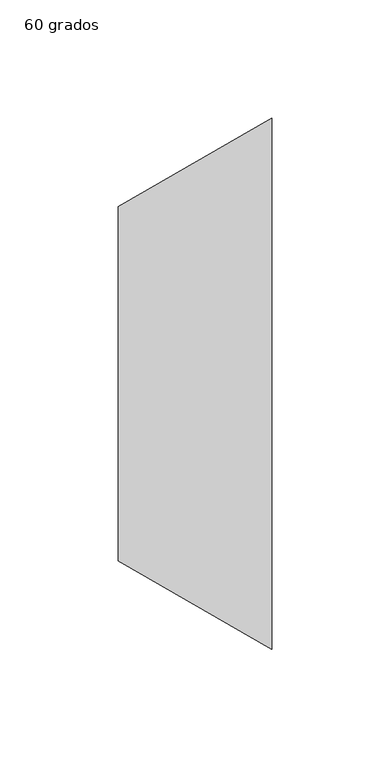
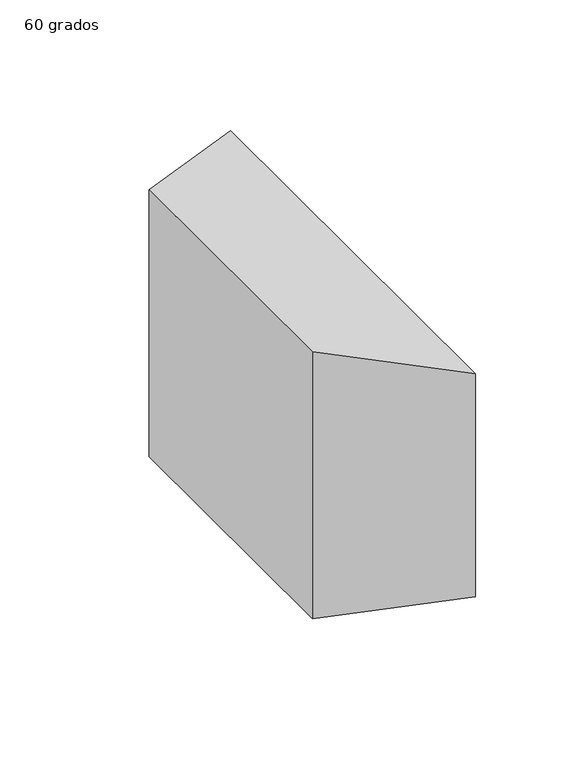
"""IFC4 building model written with IfcOpenShell, lengths in millimetres: duct fitting geometry, M_Transición rectangular - Ángulo : 60 grados."""

import ifcopenshell
import ifcopenshell.guid

model = None  # the IFC model being written
_history = None  # IfcOwnerHistory: only IFC2X3 demands one
_inside = {}  # id of a spatial element -> (the spatial element, [elements in it])
_under = {}  # id of a project, library or spatial element -> (it, [spatial elements below it])
_declared = {}  # id of a project -> (the project, [libraries it declares])
_typed = {}  # id of a type object -> (the type object, [elements of that type])
_made_of = {}  # id of a material, layer set ... -> (it, [elements and type objects made of it])


def new_model(schema):
    """Start an empty IFC model of exactly this schema.

    Asked for "IFC4X3", IfcOpenShell would pick the latest addendum, in which some entities
    have other attributes; the version numbers below select the first issue.
    IFC2X3 requires an IfcOwnerHistory on every rooted entity: one is made here for all.
    """
    global model, _history
    if schema == "IFC4X3":
        model = ifcopenshell.file(schema_version=(4, 3, 0, 0))
    else:
        model = ifcopenshell.file(schema=schema)
    _inside.clear()
    _under.clear()
    _declared.clear()
    _typed.clear()
    _made_of.clear()
    _history = None
    if model.schema == "IFC2X3":
        org = make("IfcOrganization", Name="unknown")
        user = make(
            "IfcPersonAndOrganization",
            ThePerson=make("IfcPerson", FamilyName="unknown"),
            TheOrganization=org,
        )
        app = make(
            "IfcApplication",
            ApplicationDeveloper=org,
            Version="unknown",
            ApplicationFullName="unknown",
            ApplicationIdentifier="unknown",
        )
        _history = make(
            "IfcOwnerHistory",
            OwningUser=user,
            OwningApplication=app,
            ChangeAction="ADDED",
            CreationDate=0,
        )
    return model


def make(cls, **values):
    """One entity of the class cls with the attributes given. An attribute that is None is left unset."""
    return model.create_entity(
        cls, **{name: value for name, value in values.items() if value is not None}
    )


def rooted(cls, **values):
    """An entity with a GlobalId (a new one), such as an element, a storey or a relation."""
    return make(cls, GlobalId=ifcopenshell.guid.new(), OwnerHistory=_history, **values)


def si_unit(unit_type, name, prefix=None):
    """IfcSIUnit, for example si_unit("LENGTHUNIT", "METRE", prefix="MILLI")."""
    return make("IfcSIUnit", UnitType=unit_type, Prefix=prefix, Name=name)


def assignment(units):
    """IfcUnitAssignment: the units of a project."""
    return None if units is None else make("IfcUnitAssignment", Units=units)


def point(xyz):
    """IfcCartesianPoint."""
    return None if xyz is None else make("IfcCartesianPoint", Coordinates=xyz)


def direction(xyz):
    """IfcDirection."""
    return None if xyz is None else make("IfcDirection", DirectionRatios=xyz)


def frame(location, z_axis=None, x_axis=None):
    """IfcAxis2Placement3D, a coordinate frame: its origin and axes. An axis left out is left unset."""
    return make(
        "IfcAxis2Placement3D",
        Location=point(location),
        Axis=direction(z_axis),
        RefDirection=direction(x_axis),
    )


def origin():
    """The frame at (0, 0, 0) with its axes left unset."""
    return frame((0.0, 0.0, 0.0))


def place(relative_to, where):
    """IfcLocalPlacement: puts the frame where relative to a parent placement (None: the world)."""
    return make(
        "IfcLocalPlacement", PlacementRelTo=relative_to, RelativePlacement=where
    )


def context(
    kind, dimensions, precision=None, world=None, true_north=None, identifier=None
):
    """IfcGeometricRepresentationContext, for example the 3D "Model" context."""
    return make(
        "IfcGeometricRepresentationContext",
        ContextIdentifier=identifier,
        ContextType=kind,
        CoordinateSpaceDimension=dimensions,
        Precision=precision,
        WorldCoordinateSystem=world,
        TrueNorth=true_north,
    )


def project(units=None, contexts=None):
    """IfcProject with its units and contexts."""
    return rooted(
        "IfcProject",
        Name="project",
        RepresentationContexts=contexts,
        UnitsInContext=assignment(units),
    )


def spatial(cls, under=None, at=None, **own):
    """A site, building, storey or space (cls), placed at a placement, below another one or the project."""
    s = rooted(cls, ObjectPlacement=at, **own)
    if under is not None:
        _under.setdefault(under.id(), (under, []))[1].append(s)
    return s


def faces_of(points, faces, orient=None, outer=None):
    """IfcFace entities. A face is a list of loops; a loop is a list of indices into points, from 0.

    orient and outer hold one flag for each loop. By default every Orientation is true, the
    first loop of a face is its IfcFaceOuterBound and the others are IfcFaceBound.
    """
    made = []
    for i, loops in enumerate(faces):
        bounds = []
        for j, loop in enumerate(loops):
            is_outer = j == 0 if outer is None else outer[i][j]
            bounds.append(
                make(
                    "IfcFaceOuterBound" if is_outer else "IfcFaceBound",
                    Bound=make("IfcPolyLoop", Polygon=[points[k] for k in loop]),
                    Orientation=True if orient is None else orient[i][j],
                )
            )
        made.append(make("IfcFace", Bounds=bounds))
    return made


def faceted_brep(points, faces, orient=None, outer=None, voids=None):
    """IfcFacetedBrep: a solid bounded by flat faces; with voids (closed shells), ...WithVoids."""
    shared = [point(p) for p in points]
    hull = make("IfcClosedShell", CfsFaces=faces_of(shared, faces, orient, outer))
    if voids is None:
        return make("IfcFacetedBrep", Outer=hull)
    return make(
        "IfcFacetedBrepWithVoids",
        Outer=hull,
        Voids=[
            make(cls, CfsFaces=faces_of(shared, fs, o, b)) for cls, fs, o, b in voids
        ],
    )


def shape(context_of_items, identifier, shape_type, items):
    """IfcShapeRepresentation: the items that make up one representation, for example the "Body"."""
    return make(
        "IfcShapeRepresentation",
        ContextOfItems=context_of_items,
        RepresentationIdentifier=identifier,
        RepresentationType=shape_type,
        Items=items,
    )


def source(mapping_origin, context_of_items, identifier, shape_type, items):
    """IfcRepresentationMap: a shape defined once, which mapped items show again and again."""
    return make(
        "IfcRepresentationMap",
        MappingOrigin=mapping_origin,
        MappedRepresentation=shape(context_of_items, identifier, shape_type, items),
    )


def transform(
    local_origin,
    x_axis=None,
    y_axis=None,
    z_axis=None,
    scale=None,
    scale2=None,
    scale3=None,
    uniform=True,
):
    """IfcCartesianTransformationOperator3D, or its non-uniform kind. x_axis, y_axis, z_axis: its Axis1, 2, 3."""
    if uniform:
        return make(
            "IfcCartesianTransformationOperator3D",
            Axis1=direction(x_axis),
            Axis2=direction(y_axis),
            LocalOrigin=point(local_origin),
            Scale=scale,
            Axis3=direction(z_axis),
        )
    return make(
        "IfcCartesianTransformationOperator3DnonUniform",
        Axis1=direction(x_axis),
        Axis2=direction(y_axis),
        LocalOrigin=point(local_origin),
        Scale=scale,
        Axis3=direction(z_axis),
        Scale2=scale2,
        Scale3=scale3,
    )


def mapped(mapping_source, mapping_target):
    """IfcMappedItem: shows the shape of a source again, moved by a transform."""
    return make(
        "IfcMappedItem", MappingSource=mapping_source, MappingTarget=mapping_target
    )


def made_of(thing, what):
    """Note that an element or type object is made of a material, layer set ...; save() writes the relation."""
    if what is not None:
        _made_of.setdefault(what.id(), (what, []))[1].append(thing)
    return thing


def element(
    cls,
    number,
    at=None,
    inside=None,
    cuts=None,
    type_object=None,
    material=None,
    context=None,
    identifier="Body",
    shape_type=None,
    held_by="IfcProductDefinitionShape",
    body=None,
    shapes=None,
    **own,
):
    """One element of the class cls, such as IfcWall. Its Tag is "e" and its number.

    at: its placement. inside: the storey or other place that contains it. cuts: it is an
    opening in that element (IfcRelVoidsElement). A single representation is given by context,
    identifier, shape_type and body (its items); several are given by shapes. held_by: the class
    of the entity that holds the representations. save() writes the other relations.
    """
    e = rooted(cls, Tag="e%d" % number, ObjectPlacement=at, **own)
    if body is not None:
        shapes = [shape(context, identifier, shape_type, body)]
    if shapes is not None:
        e.Representation = make(held_by, Representations=shapes)
    if inside is not None:
        _inside.setdefault(inside.id(), (inside, []))[1].append(e)
    if cuts is not None:
        rooted(
            "IfcRelVoidsElement", RelatingBuildingElement=cuts, RelatedOpeningElement=e
        )
    if type_object is not None:
        _typed.setdefault(type_object.id(), (type_object, []))[1].append(e)
    return made_of(e, material)


def aggregate(whole, parts):
    """IfcRelAggregates: a whole, such as a stair, and the parts it consists of."""
    return rooted("IfcRelAggregates", RelatingObject=whole, RelatedObjects=parts)


def save(model, path):
    """Write the relations noted so far, then the file.

    IfcRelAggregates (storeys below a building ...), IfcRelContainedInSpatialStructure (elements
    in a storey), IfcRelDefinesByType, IfcRelAssociatesMaterial and IfcRelDeclares: one each for
    every whole, place, type object, material and project.
    """
    for whole, parts in _under.values():
        aggregate(whole, parts)
    for where, things in _inside.values():
        rooted(
            "IfcRelContainedInSpatialStructure",
            RelatedElements=things,
            RelatingStructure=where,
        )
    for kind, things in _typed.values():
        rooted("IfcRelDefinesByType", RelatedObjects=things, RelatingType=kind)
    for what, things in _made_of.values():
        rooted("IfcRelAssociatesMaterial", RelatedObjects=things, RelatingMaterial=what)
    for by, libraries in _declared.values():
        rooted("IfcRelDeclares", RelatingContext=by, RelatedDefinitions=libraries)
    model.write(path)


def duct_fitting_60_grados_7320e69d(model_context):
    return source(origin(), model_context, "Body", "Brep", [
        faceted_brep([(64.9519053, -112.5, 62.5), (64.9519053, -112.5, -62.5), (64.9519053, 112.5, -62.5), (64.9519053, 112.5, 62.5), (0.0, -75.0, 75.0), (0.0, 75.0, 75.0), (0.0, 75.0, -75.0), (0.0, -75.0, -75.0)], [[[0, 1, 2, 3]], [[4, 5, 6, 7]], [[4, 7, 1, 0]], [[7, 6, 2, 1]], [[6, 5, 3, 2]], [[5, 4, 0, 3]]]),
    ])


if __name__ == "__main__":
    model = new_model("IFC4")
    model_context = context("Model", 3, world=origin())
    ifc_project = project(units=[si_unit("LENGTHUNIT", "METRE", prefix="MILLI")], contexts=[model_context])
    site = spatial("IfcSite", under=ifc_project)
    building = spatial("IfcBuilding", under=site)
    placement = place(None, origin())
    duct_fitting_60_grados_shape = duct_fitting_60_grados_7320e69d(model_context)
    element("IfcDuctFitting", 1, ObjectType="M_Transición rectangular - Ángulo : 60 grados", at=placement, inside=building, context=model_context, shape_type="MappedRepresentation", body=[
        mapped(duct_fitting_60_grados_shape, transform((0.0, 0.0, 0.0), x_axis=(1.0, 0.0, 0.0), y_axis=(0.0, 1.0, 0.0), z_axis=(0.0, 0.0, 1.0))),
    ])
    save(model, "model.ifc")
